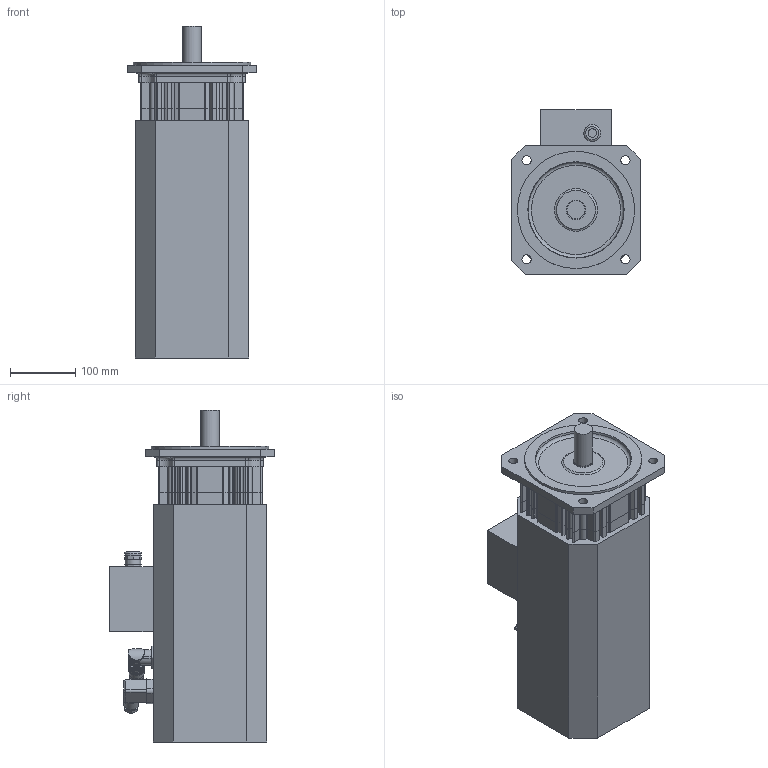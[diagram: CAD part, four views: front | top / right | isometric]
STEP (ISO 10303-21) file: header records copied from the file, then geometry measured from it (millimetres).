
FILE_DESCRIPTION(/* description */ (''),/* implementation_level */ '2;1');
FILE_NAME(/* name */ 'KSA8412_FS_Ix',/* time_stamp */ '2009-03-02T09:59:14+01:00',/* author */ (''),/* organization */ (''),/* preprocessor_version */ 'ST-DEVELOPER v8',/* originating_system */ 'UNIGRAPHICS SOLUTIONS - UNIGRAPHICS 18.0',/* authorisation */ '');
FILE_SCHEMA (('AUTOMOTIVE_DESIGN { 1 2 10303 214 0 1 1 1 }'));
Length unit declared in the file: millimetre
Products named in the file (8): 0280391600_0; Winkelflanschdose_0; 014146_0; 014145_0; Lagersch_8AS_0; 089107X_0; SK3958_0; KSA8412_FS_Ix_0
Assembly tree (7 placements, depth 3):
  KSA8412_FS_Ix_0
    089107X_0
    Lagersch_8AS_0
    SK3958_0
      0280391600_0
    014145_0
    014146_0
    Winkelflanschdose_0
Bounding box: 198 x 253.35 x 510 mm (x, y, z)
Volume: 12550608.2 mm3; surface area: 617505 mm2
Topology: 8 solids, 8 shells, 792 faces, 2199 edges, 1446 vertices
Faces by surface type: cylinder 458, plane 302, torus 16, cone 8, bspline 4, sphere 4
Full cylindrical faces by diameter (mm): 3.2 x1, 3.5 x4, 4.5 x1, 5 x1, 6.5 x4, 10 x1, 13 x2, 14 x4, 16 x1, 17 x1, 20 x3, 21 x1, 21.5 x1, 22.5 x1, 23 x2, 24 x1, 26 x1, 28 x1, 30 x1, 149.6 x2, 151 x1, 180 x1
Entity records: 25928 total; most frequent: CARTESIAN_POINT 5122, DIRECTION 4420, ORIENTED_EDGE 4280, EDGE_CURVE 2140, AXIS2_PLACEMENT_3D 1640, VERTEX_POINT 1435, LINE 1140, VECTOR 1140
